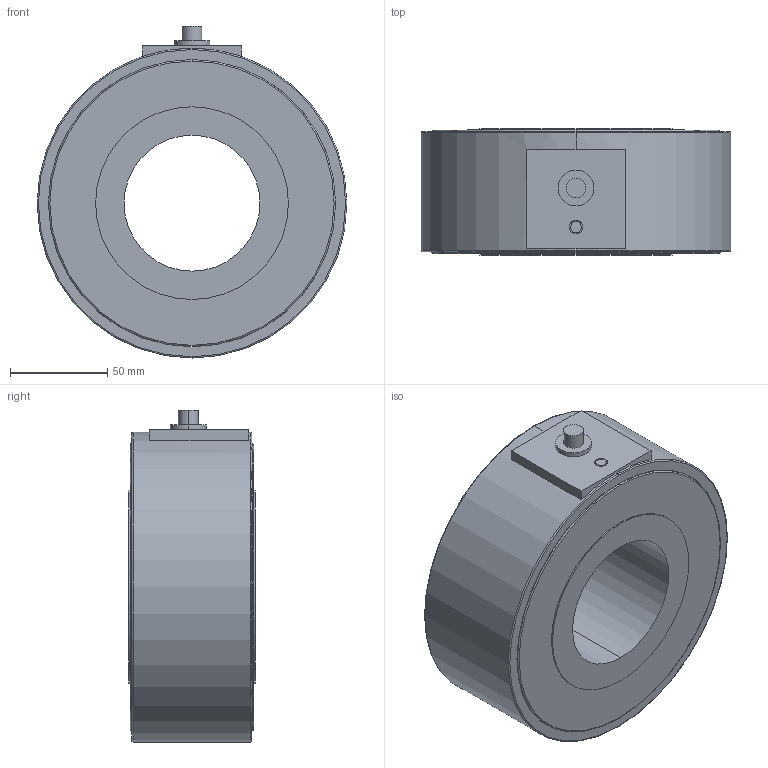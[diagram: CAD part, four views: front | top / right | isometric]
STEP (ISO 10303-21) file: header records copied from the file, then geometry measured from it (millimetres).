
FILE_DESCRIPTION (( 'STEP AP214' ), '1' );
FILE_NAME ('FINAL ASBY SS1820-250KLB.STEP', '2024-08-12T14:57:30', ( '' ), ( '' ), 'SwSTEP 2.0', 'SolidWorks 2008', '' );
FILE_SCHEMA (( 'AUTOMOTIVE_DESIGN' ));
Length unit declared in the file: inch
Products named in the file (1): FINAL ASBY SS1820-250KLB
Bounding box: 159.13 x 64.77 x 170.59 mm (x, y, z)
Volume: 1023098.8 mm3; surface area: 132309.2 mm2
Topology: 1 solids, 1 shells, 51 faces, 121 edges, 78 vertices
Faces by surface type: plane 25, cylinder 18, torus 8
Entity records: 1530 total; most frequent: DIRECTION 289, CARTESIAN_POINT 251, ORIENTED_EDGE 242, EDGE_CURVE 121, AXIS2_PLACEMENT_3D 116, VERTEX_POINT 78, CIRCLE 64, EDGE_LOOP 61
